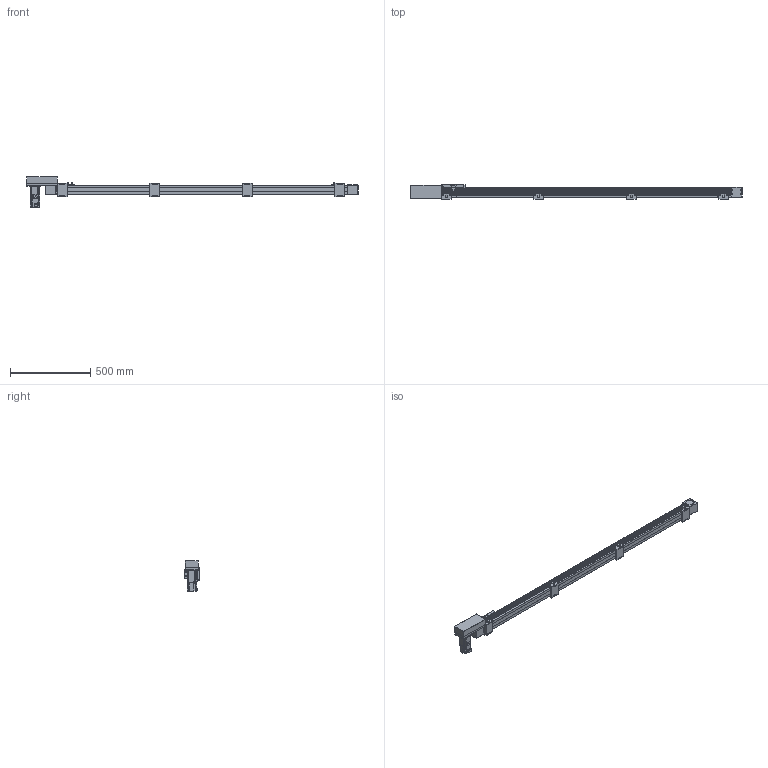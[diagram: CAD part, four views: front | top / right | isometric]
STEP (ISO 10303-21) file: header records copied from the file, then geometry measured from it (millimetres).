
FILE_DESCRIPTION(/* description */ ('STEP AP214'),/* implementation_level */ '2;1');
FILE_NAME(/* name */ 'SK60-P13-S1650-R-T40-C1-N(0)',/* time_stamp */ '2023-04-06T04:27:51+02:00',/* author */ ('License CC BY-ND 4.0'),/* organization */ ('CADENAS'),/* preprocessor_version */ 'ST-DEVELOPER v19.3',/* originating_system */ 'PARTsolutions',/* authorisation */ ' ');
FILE_SCHEMA (('AUTOMOTIVE_DESIGN {1 0 10303 214 3 1 1}'));
Length unit declared in the file: millimetre
Products named in the file (10): SK60-P13-S1650-R-T40-C1-N(0); PSC140-sensor; SK60-S450_seat; SK60-S450-BL-C1_slider; SK60_body3; SK60_body6; SK60-BL_body2; T40-p1; SK60-R_fb; SK60-S1650-R-C1_body
Assembly tree (18 placements, depth 2):
  SK60-P13-S1650-R-T40-C1-N(0)
    PSC140-sensor  x3
    SK60-S450_seat  x4
    SK60-S450-BL-C1_slider
    SK60_body3  x3
    SK60_body6  x2
    SK60-BL_body2  x2
    T40-p1
    SK60-R_fb
    SK60-S1650-R-C1_body
Bounding box: 2070.5 x 90 x 189.7 mm (x, y, z)
Volume: 7854772.5 mm3; surface area: 954157.4 mm2
Topology: 18 solids, 18 shells, 898 faces, 2244 edges, 1477 vertices
Faces by surface type: plane 572, cylinder 294, cone 30, torus 2
Full cylindrical faces by diameter (mm): 2.8 x3, 3.3 x4, 4 x2, 4.5 x30, 4.6 x3, 4.917 x24, 5 x6, 5.478 x4, 5.5 x27, 6.5 x8, 7 x2, 8 x4, 8.5 x4, 9.988 x4, 10 x16, 14 x1, 47 x3, 50 x2
Entity records: 18671 total; most frequent: DIRECTION 3188, CARTESIAN_POINT 3152, ORIENTED_EDGE 2940, EDGE_CURVE 1470, AXIS2_PLACEMENT_3D 1070, LINE 1048, VECTOR 1048, VERTEX_POINT 1034
